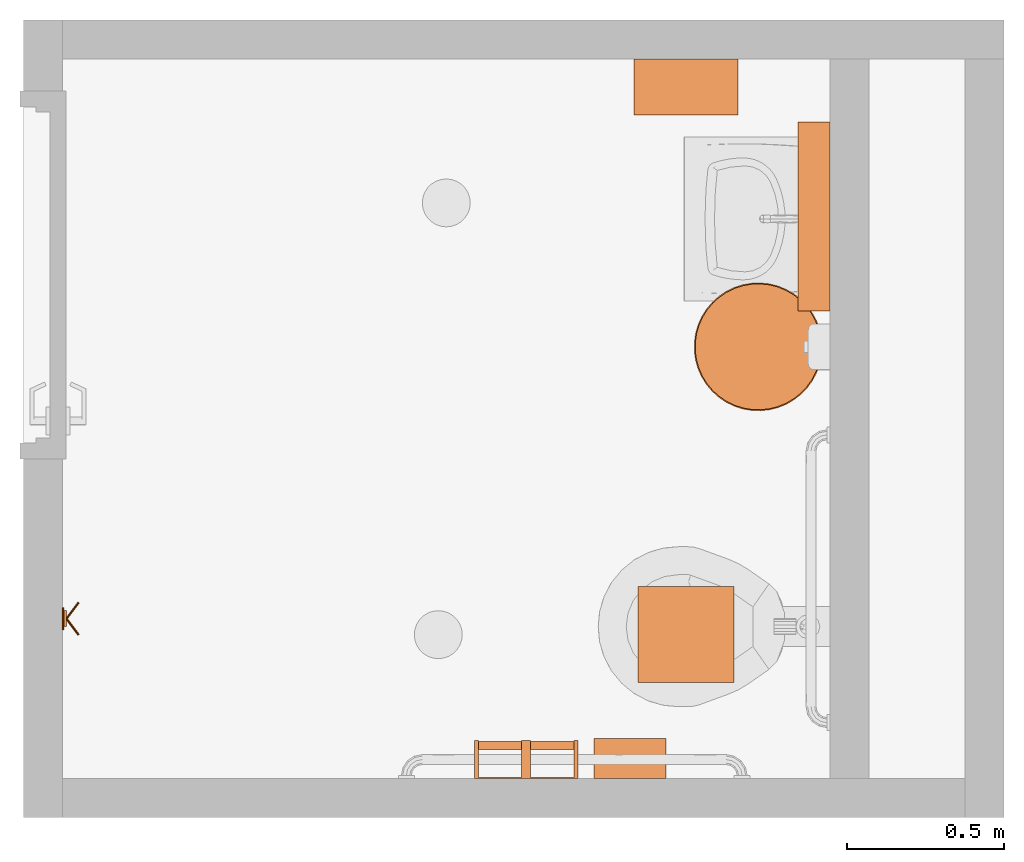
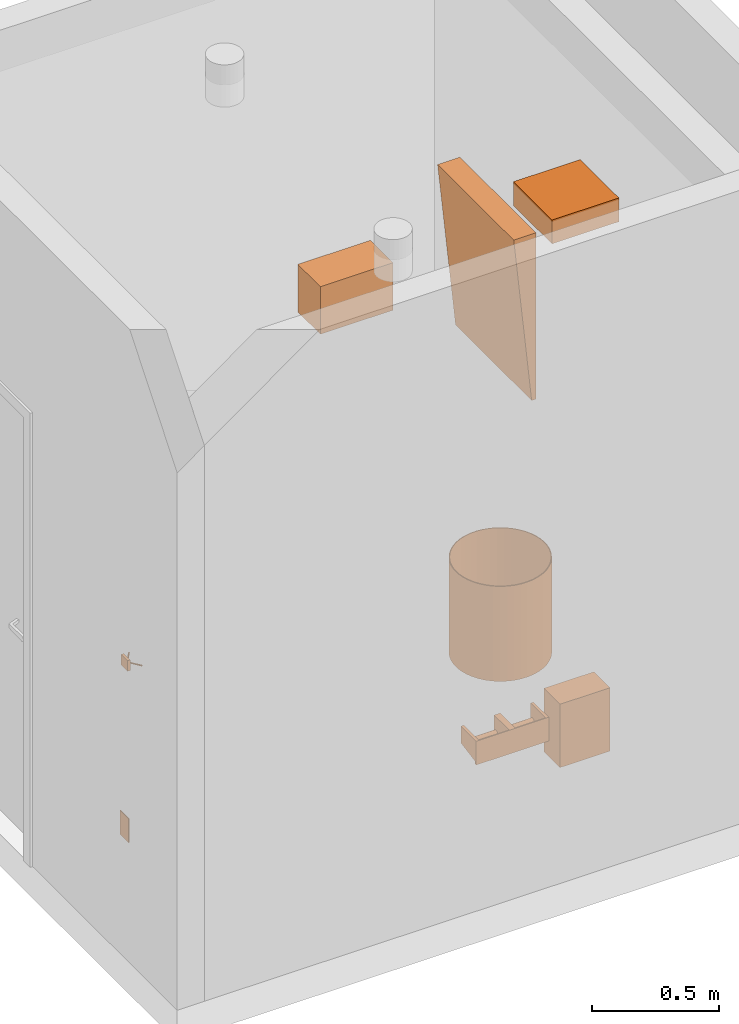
# One storey, part 5 of 7: 8 proxies.
"""IFC2X3 building model written with IfcOpenShell, lengths in feet."""

from ifc_helpers import new_model, entity, si_unit, converted_unit, derived_unit, direction, frame, frame_2d, origin, origin_2d_with_axis, place, context, subcontext, project, spatial, polyline, rectangle, circle, hollow_circle, outline, extrude, source, transform, mapped, type_object, type_shapes, element, save


model = new_model("IFC2X3")

# Units and contexts
model_context = context("Model", 3, precision=0.0001, world=origin(), true_north=direction((6.12303176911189e-17, 1.0)))
body_context = subcontext(model_context, "Body", "Model", "MODEL_VIEW")
ifc_project = project(units=[converted_unit("LENGTHUNIT", "FOOT", entity("IfcRatioMeasure", 0.3048), si_unit("LENGTHUNIT", "METRE"), dimensions=[1, 0, 0, 0, 0, 0, 0]), converted_unit("AREAUNIT", "SQUARE FOOT", entity("IfcRatioMeasure", 0.09290304), si_unit("AREAUNIT", "SQUARE_METRE"), dimensions=[2, 0, 0, 0, 0, 0, 0]), converted_unit("VOLUMEUNIT", "CUBIC FOOT", entity("IfcRatioMeasure", 0.028316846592), si_unit("VOLUMEUNIT", "CUBIC_METRE"), dimensions=[3, 0, 0, 0, 0, 0, 0]), converted_unit("PLANEANGLEUNIT", "DEGREE", entity("IfcRatioMeasure", 0.0174532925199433), si_unit("PLANEANGLEUNIT", "RADIAN"), dimensions=[0, 0, 0, 0, 0, 0, 0]), si_unit("MASSUNIT", "GRAM", prefix="KILO"), derived_unit("MASSDENSITYUNIT", [(si_unit("MASSUNIT", "GRAM", prefix="KILO"), 1), (si_unit("LENGTHUNIT", "METRE"), -3)]), si_unit("TIMEUNIT", "SECOND"), si_unit("FREQUENCYUNIT", "HERTZ"), si_unit("THERMODYNAMICTEMPERATUREUNIT", "DEGREE_CELSIUS"), derived_unit("THERMALTRANSMITTANCEUNIT", [(si_unit("MASSUNIT", "GRAM", prefix="KILO"), 1), (si_unit("THERMODYNAMICTEMPERATUREUNIT", "KELVIN"), -1), (si_unit("TIMEUNIT", "SECOND"), -3)]), derived_unit("VOLUMETRICFLOWRATEUNIT", [(si_unit("LENGTHUNIT", "METRE"), 3), (si_unit("TIMEUNIT", "SECOND"), -1)]), si_unit("ELECTRICCURRENTUNIT", "AMPERE"), si_unit("ELECTRICVOLTAGEUNIT", "VOLT"), si_unit("POWERUNIT", "WATT"), si_unit("FORCEUNIT", "NEWTON"), si_unit("ILLUMINANCEUNIT", "LUX"), si_unit("LUMINOUSFLUXUNIT", "LUMEN"), si_unit("LUMINOUSINTENSITYUNIT", "CANDELA"), derived_unit("USERDEFINED", [(si_unit("MASSUNIT", "GRAM", prefix="KILO"), -1), (si_unit("LENGTHUNIT", "METRE"), -2), (si_unit("TIMEUNIT", "SECOND"), 3), (si_unit("LUMINOUSFLUXUNIT", "LUMEN"), 1)]), derived_unit("LINEARVELOCITYUNIT", [(si_unit("LENGTHUNIT", "METRE"), 1), (si_unit("TIMEUNIT", "SECOND"), -1)]), si_unit("PRESSUREUNIT", "PASCAL"), derived_unit("USERDEFINED", [(si_unit("LENGTHUNIT", "METRE"), -2), (si_unit("MASSUNIT", "GRAM", prefix="KILO"), 1), (si_unit("TIMEUNIT", "SECOND"), -2)])], contexts=[model_context])

# Site, building, storey, space
site_placement = place(None, origin())
site = spatial("IfcSite", under=ifc_project, at=site_placement, Name="Default", CompositionType="ELEMENT")
building_placement = place(site_placement, origin())
building = spatial("IfcBuilding", under=site, at=building_placement, Name="OUTPATIENT / PACT CLINIC (Ch. 265)", CompositionType="ELEMENT")
storey_placement = place(building_placement, origin())
storey = spatial("IfcBuildingStorey", under=building, at=storey_placement, Name="DATUM", CompositionType="ELEMENT", Elevation=0.0)
space_placement = place(storey_placement, origin())
space = spatial("IfcSpace", under=storey, at=space_placement, Name="TNPG1", CompositionType="ELEMENT", InteriorOrExteriorSpace="INTERNAL")

# Proxies
building_element_proxy_type_1 = type_object("IfcBuildingElementProxyType", Name="A5090 - Dispenser, Sanitary Napkin, SS, Surface Mounted", PredefinedType="NOTDEFINED")
shared_shape_1 = source(origin(), body_context, "Body", "SweptSolid", [
    extrude(rectangle(XDim=0.0833333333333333, YDim=0.75, at=origin_2d_with_axis()), frame((0.0, -0.0416666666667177, 0.87500000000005), z_axis=(0.0, 0.0, 1.0), x_axis=(0.0, 1.0, 0.0)), (0.0, 0.0, 1.0), 0.125000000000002),
    extrude(outline(polyline([(-0.0828981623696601, -0.378205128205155), (0.0421018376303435, -0.378205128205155), (0.042101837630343, -0.0865384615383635), (0.0166807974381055, -0.0793339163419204), (-0.0043447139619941, -0.0589660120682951), (-0.017339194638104, -0.0289565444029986), (-0.0200557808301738, 0.0055055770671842), (-0.0120247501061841, 0.038461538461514), (0.00536525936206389, 0.0642129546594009), (0.0291073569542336, 0.0783071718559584), (0.0421018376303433, 0.0801282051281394), (0.0421018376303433, 0.371794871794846), (-0.0828981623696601, 0.371794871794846), (-0.0828981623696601, -0.378205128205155)])), frame((-0.00320512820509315, -0.416666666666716, 0.917101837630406), z_axis=(0.0, 1.0, 0.0), x_axis=(0.0, 0.0, -1.0)), (0.0, 0.0, 1.0), 0.333333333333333),
    extrude(rectangle(XDim=0.416666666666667, YDim=0.749999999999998, at=origin_2d_with_axis()), frame((0.0, -0.208333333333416, 0.0), z_axis=(0.0, 0.0, 1.0), x_axis=(0.0, 1.0, 0.0)), (0.0, 0.0, 1.0), 0.875000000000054),
])
type_shapes(building_element_proxy_type_1, [shared_shape_1])
proxy_1_placement = place(space_placement, frame((103.310255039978, -861.158656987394, 1.5), z_axis=(0.0, 0.0, 1.0), x_axis=(-1.0, 0.0, 0.0)))
element("IfcBuildingElementProxy", 1, at=proxy_1_placement, inside=space, type_object=building_element_proxy_type_1, Name="A5090 - Dispenser, Sanitary Napkin, SS, Surface Mounted:A5090 - Dispenser, Sanitary Napkin, SS, Surface Mounted", ObjectType="A5090 - Dispenser, Sanitary Napkin, SS, Surface Mounted", context=body_context, shape_type="MappedRepresentation", body=[
    mapped(shared_shape_1, transform((0.0, 0.0, 0.0), scale=1.0)),
])
building_element_proxy_type_2 = type_object("IfcBuildingElementProxyType", Name="A5145 - Hook, Garment, Double", PredefinedType="NOTDEFINED")
shared_shape_2 = source(origin(), body_context, "Body", "SweptSolid", [
    extrude(circle(Radius=0.0105952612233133, at=frame_2d((-1.64551454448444e-31, -4.16333634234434e-17), x_axis=(1.0, 0.0))), frame((-0.169086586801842, -0.168481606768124, 0.0833333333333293), z_axis=(0.799999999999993, 0.60000000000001, 0.0), x_axis=(0.60000000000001, -0.799999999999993, 0.0)), (0.0, 0.0, 1.0), 0.211358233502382),
    extrude(circle(Radius=0.0105952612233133, at=frame_2d((5.2041704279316e-19, 2.77555756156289e-17), x_axis=(1.0, 0.0))), frame((0.0, -0.0416666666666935, 0.083333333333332), z_axis=(0.799999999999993, -0.60000000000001, 0.0), x_axis=(-0.60000000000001, -0.799999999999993, 0.0)), (0.0, 0.0, 1.0), 0.211358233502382),
    extrude(rectangle(XDim=0.0416666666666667, YDim=0.166666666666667, at=origin_2d_with_axis()), frame((0.0, -0.0208333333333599, 0.0), z_axis=(0.0, 0.0, 1.0), x_axis=(0.0, 1.0, 0.0)), (0.0, 0.0, 1.0), 0.166666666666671),
])
type_shapes(building_element_proxy_type_2, [shared_shape_2])
proxy_2_placement = place(space_placement, frame((97.3935883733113, -859.491990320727, 4.0), z_axis=(0.0, 0.0, 1.0), x_axis=(0.0, 1.0, 0.0)))
element("IfcBuildingElementProxy", 2, at=proxy_2_placement, inside=space, type_object=building_element_proxy_type_2, Name="A5145 - Hook, Garment, Double:A5145 - Hook, Garment, Double", ObjectType="A5145 - Hook, Garment, Double", context=body_context, shape_type="MappedRepresentation", body=[
    mapped(shared_shape_2, transform((0.0, 0.0, 0.0), scale=1.0)),
])
building_element_proxy_type_3 = type_object("IfcBuildingElementProxyType", Name="A5200 - Dispenser, Toilet Tissue, SS, 2-Roll, Surface Mntd", PredefinedType="NOTDEFINED")
shared_shape_3 = source(origin(), body_context, "Body", "SweptSolid", [
    extrude(circle(Radius=0.0439072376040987, at=frame_2d((-4.93038065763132e-32, -5.55111512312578e-17), x_axis=(1.0, 0.0))), frame((0.0468750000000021, -0.344872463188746, 0.125668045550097), z_axis=(1.0, 0.0, 0.0), x_axis=(0.0, 0.0, 1.0)), (0.0, 0.0, 1.0), 0.453124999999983),
    extrude(circle(Radius=0.0061848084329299, at=origin_2d_with_axis()), frame((0.0468750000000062, -0.34487246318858, 0.125668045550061), z_axis=(1.0, 0.0, 0.0), x_axis=(0.0, -1.0, 0.0)), (0.0, 0.0, 1.0), 0.453124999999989),
    extrude(circle(Radius=0.0439072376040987, at=frame_2d((-9.86076131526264e-32, -1.11022302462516e-16), x_axis=(1.0, 0.0))), frame((-0.500000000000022, -0.344872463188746, 0.125668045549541), z_axis=(1.0, 0.0, 0.0), x_axis=(0.0, 0.0, 1.0)), (0.0, 0.0, 1.0), 0.453124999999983),
    extrude(rectangle(XDim=0.0104166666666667, YDim=0.541666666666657, at=origin_2d_with_axis()), frame((0.270833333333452, -0.00520833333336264, 0.0), z_axis=(0.0, 0.0, 1.0), x_axis=(0.0, 1.0, 0.0)), (0.0, 0.0, 1.0), 0.375668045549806),
    extrude(outline(polyline([(-0.140625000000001, -0.225313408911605), (0.255208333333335, -0.225313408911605), (0.255208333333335, 0.0412295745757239), (-0.114583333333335, 0.108687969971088), (-0.114583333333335, 0.150354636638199), (-0.140625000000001, 0.150354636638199), (-0.140625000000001, -0.225313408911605)])), frame((0.0, -0.140625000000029, 0.15035463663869), z_axis=(1.0, 0.0, 0.0), x_axis=(0.0, -1.0, 0.0)), (0.0, 0.0, 1.0), 0.0468750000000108),
    extrude(outline(polyline([(-0.140625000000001, -0.225313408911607), (0.255208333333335, -0.225313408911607), (0.255208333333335, 0.0412295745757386), (-0.114583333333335, 0.108687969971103), (-0.114583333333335, 0.150354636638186), (-0.140625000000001, 0.150354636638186), (-0.140625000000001, -0.225313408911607)])), frame((0.49999999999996, -0.140625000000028, 0.150354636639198), z_axis=(1.0, 0.0, 0.0), x_axis=(0.0, -1.0, 0.0)), (0.0, 0.0, 1.0), 0.0416666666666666),
    extrude(circle(Radius=0.0061848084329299, at=frame_2d((-2.46519032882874e-32, -2.77555756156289e-17), x_axis=(1.0, 0.0))), frame((-0.500000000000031, -0.344872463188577, 0.125668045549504), z_axis=(1.0, 0.0, 0.0), x_axis=(0.0, -1.0, 0.0)), (0.0, 0.0, 1.0), 0.453124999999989),
    extrude(rectangle(XDim=0.0104166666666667, YDim=0.541666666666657, at=origin_2d_with_axis()), frame((-0.27083333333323, -0.00520833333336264, 0.0), z_axis=(0.0, 0.0, 1.0), x_axis=(0.0, 1.0, 0.0)), (0.0, 0.0, 1.0), 0.375668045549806),
    extrude(outline(polyline([(-0.140625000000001, -0.225313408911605), (0.255208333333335, -0.225313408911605), (0.255208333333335, 0.041229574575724), (-0.114583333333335, 0.108687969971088), (-0.114583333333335, 0.150354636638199), (-0.140625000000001, 0.150354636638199), (-0.140625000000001, -0.225313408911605)])), frame((-0.0468750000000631, -0.140625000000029, 0.150354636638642), z_axis=(1.0, 0.0, 0.0), x_axis=(0.0, -1.0, 0.0)), (0.0, 0.0, 1.0), 0.0468750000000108),
    extrude(outline(polyline([(-0.140625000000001, -0.225313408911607), (0.255208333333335, -0.225313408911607), (0.255208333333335, 0.0412295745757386), (-0.114583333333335, 0.108687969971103), (-0.114583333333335, 0.150354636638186), (-0.140625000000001, 0.150354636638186), (-0.140625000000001, -0.225313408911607)])), frame((-0.541666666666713, -0.140625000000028, 0.150354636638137), z_axis=(1.0, 0.0, 0.0), x_axis=(0.0, -1.0, 0.0)), (0.0, 0.0, 1.0), 0.0416666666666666),
])
type_shapes(building_element_proxy_type_3, [shared_shape_3])
proxy_3_placement = place(space_placement, frame((102.226921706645, -861.158656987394, 1.97884114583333), z_axis=(0.0, 0.0, 1.0), x_axis=(-1.0, 0.0, 0.0)))
element("IfcBuildingElementProxy", 3, at=proxy_3_placement, inside=space, type_object=building_element_proxy_type_3, Name="A5200 - Dispenser, Toilet Tissue, SS, 2-Roll, Surface Mntd:A5200 - Dispenser, Toilet Tissue, SS, 2-Roll, Surface Mntd", ObjectType="A5200 - Dispenser, Toilet Tissue, SS, 2-Roll, Surface Mntd", context=body_context, shape_type="MappedRepresentation", body=[
    mapped(shared_shape_3, transform((0.0, 0.0, 0.0), scale=1.0)),
])
building_element_proxy_type_4 = type_object("IfcBuildingElementProxyType", Name="F2000 - Basket, Wastepaper", PredefinedType="NOTDEFINED")
shared_shape_4 = source(origin(), body_context, "Body", "SweptSolid", [
    extrude(circle(Radius=0.666666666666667, at=frame_2d((0.0, -1.07702971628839e-15), x_axis=(1.0, 0.0))), origin(), (0.0, 0.0, 1.0), 0.0104166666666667),
    extrude(hollow_circle(Radius=0.666666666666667, WallThickness=0.0104166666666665, at=frame_2d((0.0, -1.07702971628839e-15), x_axis=(1.0, 0.0))), frame((0.0, 0.0, 0.0104166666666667)), (0.0, 0.0, 1.0), 1.48958333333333),
])
type_shapes(building_element_proxy_type_4, [shared_shape_4])
proxy_4_placement = place(space_placement, frame((104.643588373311, -856.658656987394, 0.0)))
element("IfcBuildingElementProxy", 4, at=proxy_4_placement, inside=space, type_object=building_element_proxy_type_4, Name="F2000 - Basket, Wastepaper:F2000 - Basket, Wastepaper", ObjectType="F2000 - Basket, Wastepaper", context=body_context, shape_type="MappedRepresentation", body=[
    mapped(shared_shape_4, transform((0.0, 0.0, 0.0), scale=1.0)),
])
building_element_proxy_type_5 = type_object("IfcBuildingElementProxyType", Name="A5080 - Dispenser, Paper Towel", PredefinedType="NOTDEFINED")
shared_shape_5 = source(origin(), body_context, "Body", "SweptSolid", [
    extrude(rectangle(XDim=0.58333333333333, YDim=1.08333333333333, at=frame_2d((9.99200722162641e-16, 0.0), x_axis=(1.0, 0.0))), frame((0.0, -0.291666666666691, 0.0), z_axis=(0.0, 0.0, 1.0), x_axis=(0.0, 1.0, 0.0)), (0.0, 0.0, 1.0), 0.75),
])
type_shapes(building_element_proxy_type_5, [shared_shape_5])
proxy_5_placement = place(space_placement, frame((103.893588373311, -853.658656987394, 4.0)))
element("IfcBuildingElementProxy", 5, at=proxy_5_placement, inside=space, type_object=building_element_proxy_type_5, Name="A5080 - Dispenser, Paper Towel:A5080 - Dispenser, Paper Towel", ObjectType="A5080 - Dispenser, Paper Towel", context=body_context, shape_type="MappedRepresentation", body=[
    mapped(shared_shape_5, transform((0.0, 0.0, 0.0), scale=1.0)),
])
building_element_proxy_type_6 = type_object("IfcBuildingElementProxyType", Name="A1067 - Mirror, Float Glass, ADA Accessible 12\"x 6\"", PredefinedType="NOTDEFINED")
shared_shape_6 = source(origin(), body_context, "Body", "SweptSolid", [
    extrude(outline(polyline([(-0.0997375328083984, -1.31233595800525), (0.233595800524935, -1.31233595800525), (-0.0341207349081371, 1.31233595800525), (-0.0997375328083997, 1.31233595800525), (-0.0997375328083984, -1.31233595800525)])), frame((0.0, -0.0997375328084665, 1.31266404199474), z_axis=(1.0, 0.0, 0.0), x_axis=(0.0, -1.0, 0.0)), (0.0, 0.0, 1.0), 1.96850393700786),
])
type_shapes(building_element_proxy_type_6, [shared_shape_6])
proxy_6_placement = place(space_placement, frame((105.393588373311, -854.314906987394, 3.5), z_axis=(0.0, 0.0, 1.0), x_axis=(0.0, -1.0, 0.0)))
element("IfcBuildingElementProxy", 6, at=proxy_6_placement, inside=space, type_object=building_element_proxy_type_6, Name="A1067 - Mirror, Float Glass, ADA Accessible:A1067 - Mirror, Float Glass, ADA Accessible 12\"x 6\"", ObjectType="A1067 - Mirror, Float Glass, ADA Accessible 12\"x 6\"", context=body_context, shape_type="MappedRepresentation", body=[
    mapped(shared_shape_6, transform((0.0, 0.0, 0.0), scale=1.0)),
])
building_element_proxy_type_7 = type_object("IfcBuildingElementProxyType", Name="12\" x 12\"", PredefinedType="NOTDEFINED")
shared_shape_7 = source(origin(), body_context, "Body", "SweptSolid", [
    extrude(rectangle(XDim=1.0, YDim=1.0, at=frame_2d((0.0, -5.55111512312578e-17), x_axis=(1.0, 0.0))), frame((0.0, 0.0, 8.0)), (0.0, 0.0, 1.0), 0.375),
])
type_shapes(building_element_proxy_type_7, [shared_shape_7])
proxy_7_placement = place(space_placement, frame((103.893588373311, -859.658656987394, 1.0)))
element("IfcBuildingElementProxy", 7, at=proxy_7_placement, inside=space, type_object=building_element_proxy_type_7, Name="Exhaust Register:12\" x 12\"", ObjectType="12\" x 12\"", context=body_context, shape_type="MappedRepresentation", body=[
    mapped(shared_shape_7, transform((0.0, 0.0, 0.0), scale=1.0)),
])
building_element_proxy_type_8 = type_object("IfcBuildingElementProxyType", Name="Duplex", PredefinedType="NOTDEFINED")
shared_shape_8 = source(origin(), body_context, "Body", "SweptSolid", [
    extrude(rectangle(XDim=0.0156249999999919, YDim=0.229166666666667, at=origin_2d_with_axis()), frame((0.0, 0.210937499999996, 0.0), z_axis=(0.0, 0.0, 1.0), x_axis=(0.0, 1.0, 0.0)), (0.0, 0.0, 1.0), 0.37500000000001),
])
type_shapes(building_element_proxy_type_8, [shared_shape_8])
proxy_8_placement = place(space_placement, frame((97.1904633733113, -859.491990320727, 1.31250000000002), z_axis=(0.0, 0.0, 1.0), x_axis=(0.0, -1.0, 0.0)))
element("IfcBuildingElementProxy", 8, at=proxy_8_placement, inside=space, type_object=building_element_proxy_type_8, Name="Outlet, Duplex, Wall:Duplex", ObjectType="Duplex", context=body_context, shape_type="MappedRepresentation", body=[
    mapped(shared_shape_8, transform((0.0, 0.0, 0.0), scale=1.0)),
])

save(model, "model.ifc")
